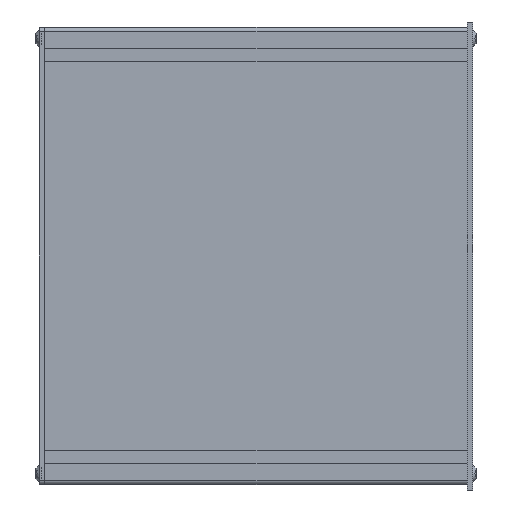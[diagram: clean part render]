
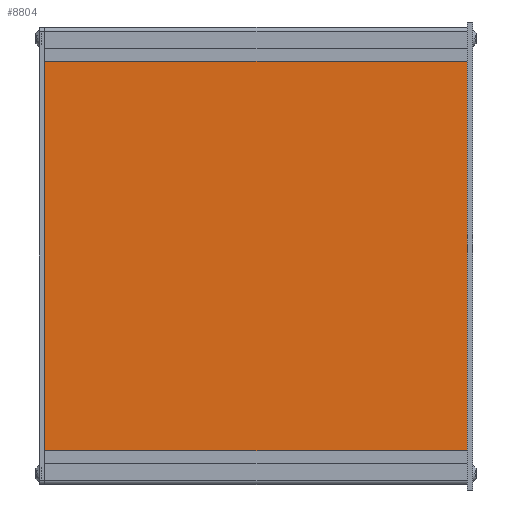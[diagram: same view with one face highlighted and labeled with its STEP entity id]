
A CAD part, left-side view. The second image highlights one B-rep face of the part: STEP entity #8804.
In plain terms, the highlighted planar face has unit normal (-1, 0, 0).
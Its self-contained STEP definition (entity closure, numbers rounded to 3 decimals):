
#972=PLANE('',#9674);
#1268=FACE_OUTER_BOUND('',#1814,.T.);
#1814=EDGE_LOOP('',(#6737,#6738,#6739,#6740));
#2614=LINE('',#13918,#3304);
#2624=LINE('',#13939,#3314);
#2625=LINE('',#13941,#3315);
#2626=LINE('',#13942,#3316);
#3304=VECTOR('',#11148,10.);
#3314=VECTOR('',#11166,10.);
#3315=VECTOR('',#11167,10.);
#3316=VECTOR('',#11168,10.);
#4330=VERTEX_POINT('',#13911);
#4333=VERTEX_POINT('',#13916);
#4340=VERTEX_POINT('',#13938);
#4341=VERTEX_POINT('',#13940);
#5197=EDGE_CURVE('',#4330,#4333,#2614,.T.);
#5207=EDGE_CURVE('',#4330,#4340,#2624,.T.);
#5208=EDGE_CURVE('',#4341,#4333,#2625,.T.);
#5209=EDGE_CURVE('',#4340,#4341,#2626,.T.);
#6737=ORIENTED_EDGE('',*,*,#5207,.F.);
#6738=ORIENTED_EDGE('',*,*,#5197,.T.);
#6739=ORIENTED_EDGE('',*,*,#5208,.F.);
#6740=ORIENTED_EDGE('',*,*,#5209,.F.);
#8804=ADVANCED_FACE('',(#1268),#972,.T.);
#9674=AXIS2_PLACEMENT_3D('',#13937,#11164,#11165);
#11148=DIRECTION('',(0.,1.,0.));
#11164=DIRECTION('center_axis',(-1.,0.,0.));
#11165=DIRECTION('ref_axis',(0.,0.,1.));
#11166=DIRECTION('',(0.,0.,-1.));
#11167=DIRECTION('',(0.,0.,1.));
#11168=DIRECTION('',(0.,1.,0.));
#13911=CARTESIAN_POINT('',(239.,0.,48.));
#13916=CARTESIAN_POINT('',(239.,200.,48.));
#13918=CARTESIAN_POINT('',(239.,0.,48.));
#13937=CARTESIAN_POINT('Origin',(239.,0.,-136.1));
#13938=CARTESIAN_POINT('',(239.,0.,-136.1));
#13939=CARTESIAN_POINT('',(239.,0.,-44.05));
#13940=CARTESIAN_POINT('',(239.,200.,-136.1));
#13941=CARTESIAN_POINT('',(239.,200.,-44.05));
#13942=CARTESIAN_POINT('',(239.,0.,-136.1));
